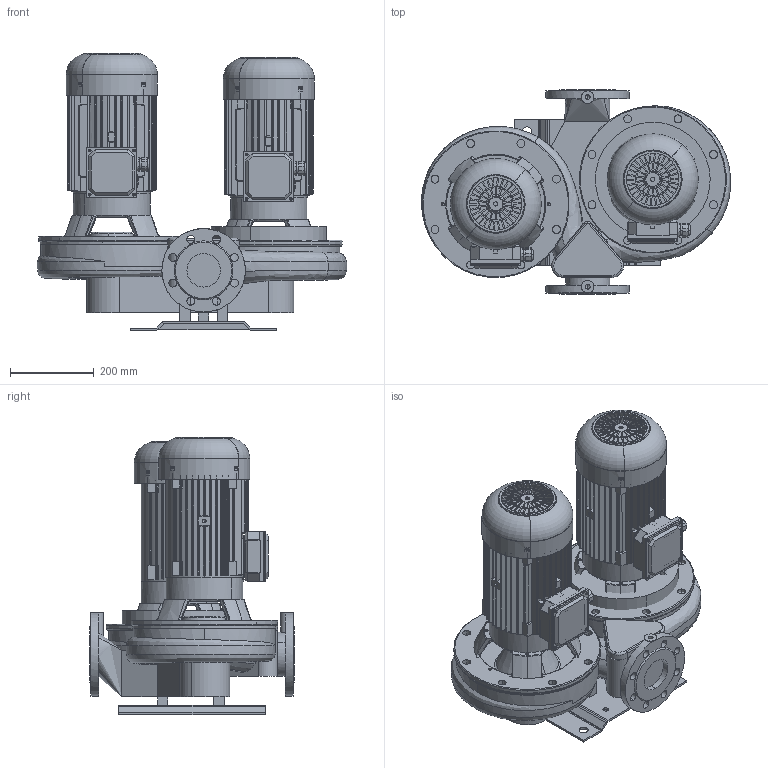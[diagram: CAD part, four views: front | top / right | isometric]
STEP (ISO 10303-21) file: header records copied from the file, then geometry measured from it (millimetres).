
FILE_DESCRIPTION(('STEP AP214'),'1');
FILE_NAME('export.stp','2018-05-30T08:10:29',(' '),(' '),'Spatial InterOp 3D',' ',' ');
FILE_SCHEMA(('AUTOMOTIVE_DESIGN { 1 0 10303 214 1 1 1 1 }'));
Length unit declared in the file: millimetre
Products named in the file (22): W_T80S4400-KP112; V_TLL50S80S; V_PPT80S; P100496; P100495; P100342; 440017; 440016; V_MKP112_2_F29; 480016; 480015; 440018; 440021; 480022; 480020; 480021; 480023; M25_Blind_Plug; M25_tiivisteholkk
Assembly tree (33 placements, depth 4):
  W_T80S4400-KP112
    V_TLL50S80S  x2
    V_PPT80S
    P100496
      P100495  x2
      P100342
    V_MKP112_2_F29
      440017
        440016
      480016
        480015
      440018
      440021
      480022
      480020
      480021
      480023
      M25_Blind_Plug
      M25_tiivisteholkk
    V_MKP112_2_F29
      440017
        440016
      480016
        480015
      440018
      440021
      480022
      480020
      480021
      480023
      M25_Blind_Plug
      M25_tiivisteholkk
Bounding box: 740.39 x 490 x 665.1 mm (x, y, z)
Volume: 35932318 mm3; surface area: 6497287.9 mm2
Topology: 26 solids, 26 shells, 3423 faces, 9568 edges, 6253 vertices
Faces by surface type: cylinder 1597, plane 1153, cone 268, torus 236, bspline 155, sphere 14
Entity records: 77273 total; most frequent: CARTESIAN_POINT 25387, ORIENTED_EDGE 10344, DIRECTION 9722, EDGE_CURVE 5172, AXIS2_PLACEMENT_3D 3733, VERTEX_POINT 3389, LINE 2256, VECTOR 2256
